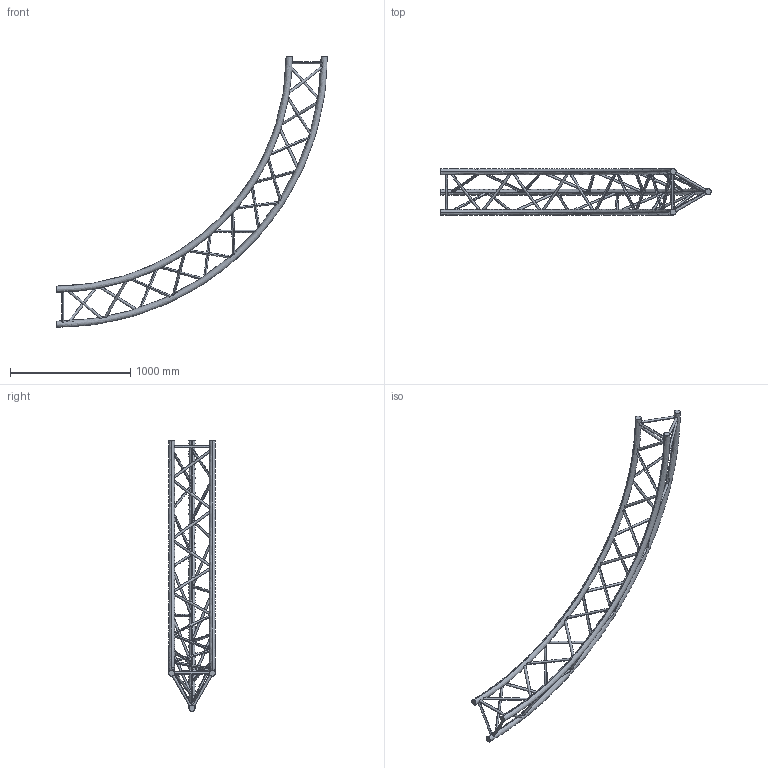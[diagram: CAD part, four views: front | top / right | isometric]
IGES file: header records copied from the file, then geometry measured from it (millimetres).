
Start section: SolidWorks IGES file using analytic representation for surfaces
Global section: file name: K:\BIBLIO\asd_biblio\SX390\Cercles\SXC39PE\SXC39450PE\SXC39450PE.IGS; native system: SolidWorks 2009; preprocessor: SolidWorks 2009; author: des3; date: 091021.135951; units: millimetre
Bounding box: 2250 x 387 x 2250 mm (x, y, z)
Surface area: 2367557.3 mm2 (no closed solid volume)
Topology: 0 solids, 0 shells, 90 faces, 6544 edges, 6544 vertices
Faces by surface type: revolution 78, bspline 12
